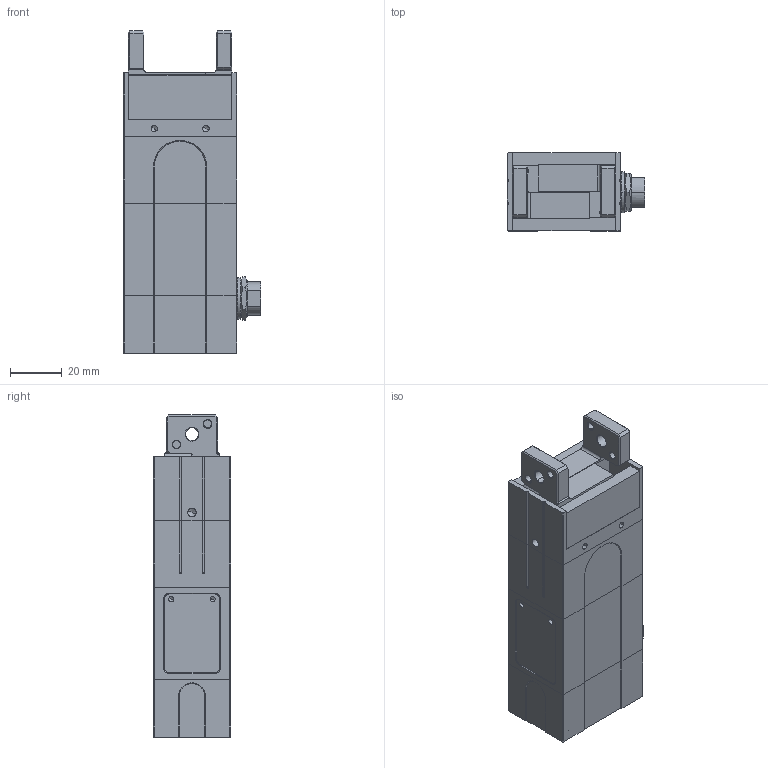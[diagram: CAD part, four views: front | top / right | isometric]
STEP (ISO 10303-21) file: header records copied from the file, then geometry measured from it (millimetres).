
FILE_DESCRIPTION(('CATIA V5 STEP Exchange'),'2;1');
FILE_NAME('F:\工作文件GP\EFG 对外资料\EFG对外资料\EFG-20\EFG-20_part.stp','2019-07-13T01:34:48+00:00',('none'),('none'),'CATIA Version 5 Release 20 GA (IN-10)','CATIA V5 STEP AP203','none');
FILE_SCHEMA(('CONFIG_CONTROL_DESIGN'));
Length unit declared in the file: millimetre
Products named in the file (1): EFG-20
Bounding box: 53.2 x 30 x 124.7 mm (x, y, z)
Volume: 120151.4 mm3; surface area: 51303.1 mm2
Topology: 14 solids, 14 shells, 732 faces, 1894 edges, 1173 vertices
Faces by surface type: plane 375, cylinder 230, cone 82, sphere 27, torus 18
Entity records: 21733 total; most frequent: CARTESIAN_POINT 5051, ORIENTED_EDGE 3650, DIRECTION 2867, EDGE_CURVE 1825, VERTEX_POINT 1173, VECTOR 1140, LINE 1140, AXIS2_PLACEMENT_3D 1133
